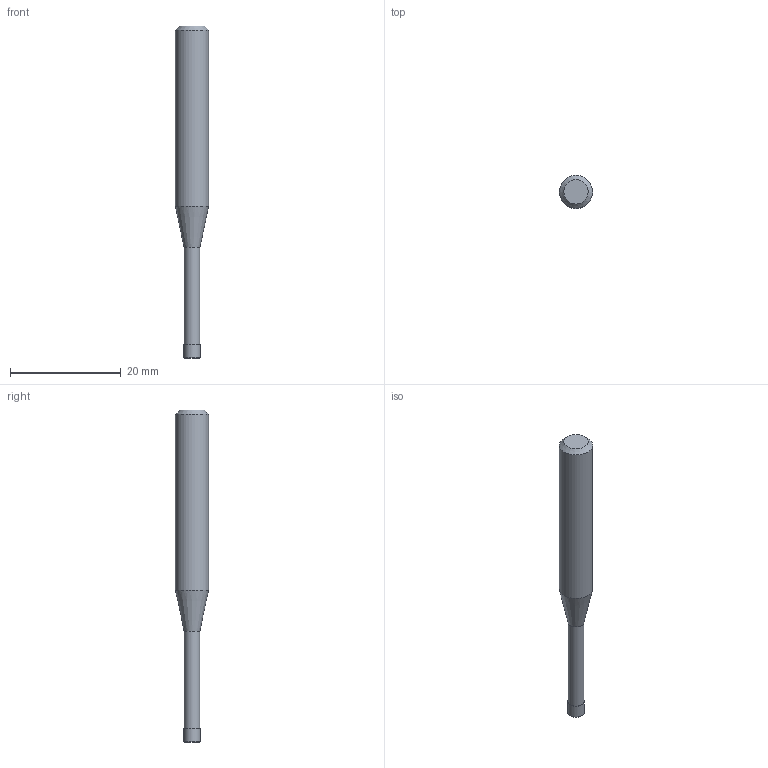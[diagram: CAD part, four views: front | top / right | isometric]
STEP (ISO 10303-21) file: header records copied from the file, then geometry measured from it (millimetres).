
FILE_DESCRIPTION((''),'2;1');
FILE_NAME('C:\Users\nsx150\AppData\Local\Temp\Mastercam 2021\3SYKECWX22\TEMP.step','2021-04-22T09:50:20',(''),(''),'STEP Write','Mastercam 2021 ... CNC Software, Inc.','');
FILE_SCHEMA(('AUTOMOTIVE_DESIGN'));
Length unit declared in the file: millimetre
Products named in the file (1): None
Bounding box: 6 x 6 x 60 mm (x, y, z)
Volume: 1164 mm3; surface area: 938.6 mm2
Topology: 2 solids, 2 shells, 10 faces, 14 edges, 8 vertices
Faces by surface type: plane 4, cylinder 3, cone 2, torus 1
Full cylindrical faces by diameter (mm): 2.85 x1, 3 x1, 6 x1
Entity records: 232 total; most frequent: DIRECTION 40, CARTESIAN_POINT 28, AXIS2_PLACEMENT_3D 20, ORIENTED_EDGE 16, EDGE_LOOP 16, STYLED_ITEM 13, ADVANCED_FACE 10, FACE_BOUND 10
